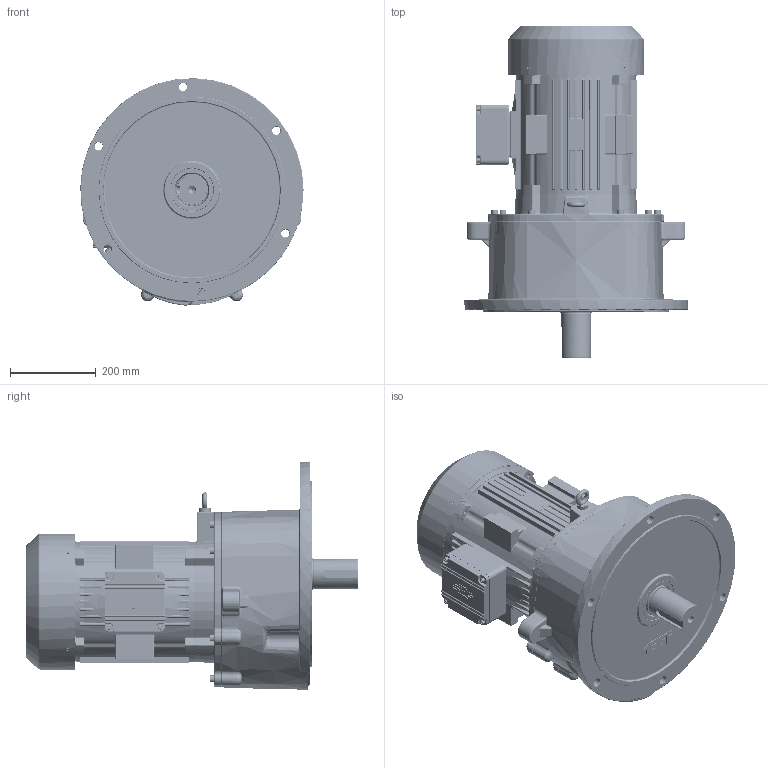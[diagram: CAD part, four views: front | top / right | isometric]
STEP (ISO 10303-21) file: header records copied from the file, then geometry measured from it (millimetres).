
FILE_DESCRIPTION(/* description */ (''),/* implementation_level */ '2;1');
FILE_NAME(/* name */ 'Z:\동력 3D 파일\PMK270_11kW_3D.stp',/* time_stamp */ '2021-12-01T15:52:07+09:00',/* author */ ('jaebok'),/* organization */ (''),/* preprocessor_version */ 'ST-DEVELOPER v18.1',/* originating_system */ 'Autodesk Inventor 2022',/* authorisation */ '');
FILE_SCHEMA (('AUTOMOTIVE_DESIGN { 1 0 10303 214 3 1 1 }'));
Products named in the file (1): 부품33
Bounding box: 519.84 x 773.2 x 529.84 mm (x, y, z)
Volume: 20300135.4 mm3; surface area: 2987793.2 mm2
Topology: 11 solids, 20 shells, 6044 faces, 15354 edges, 9308 vertices
Faces by surface type: cylinder 1755, plane 1744, bspline 1440, torus 552, sphere 330, cone 223
Full cylindrical faces by diameter (mm): 3.242 x4, 4.134 x4, 4.917 x9, 5 x13, 6 x4, 6.5 x8, 6.647 x9, 7 x1, 8 x4, 9.5 x4, 10 x21, 10.106 x2, 12 x9, 13.2 x1, 13.835 x9, 15 x1, 16 x9, 17 x8, 19 x6, 20 x1, 28 x1, 34 x1, 37 x1, 40 x1, 55 x1, 60 x1, 68 x2, 70 x1, 72 x1, 75 x3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
Entity records: 222184 total; most frequent: CARTESIAN_POINT 77851, ORIENTED_EDGE 30218, DIRECTION 26873, EDGE_CURVE 15109, AXIS2_PLACEMENT_3D 10180, VERTEX_POINT 9311, EDGE_LOOP 6588, LINE 6513
